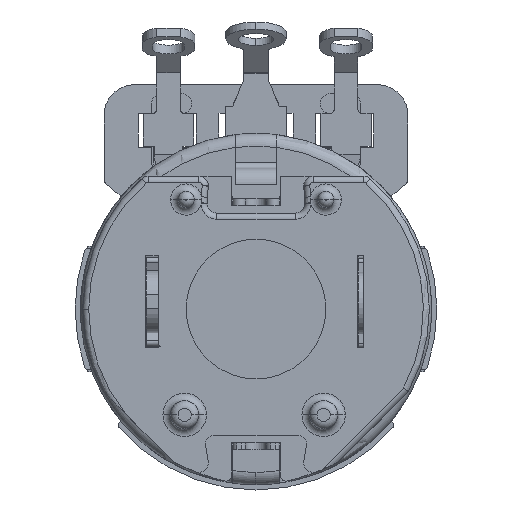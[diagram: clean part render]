
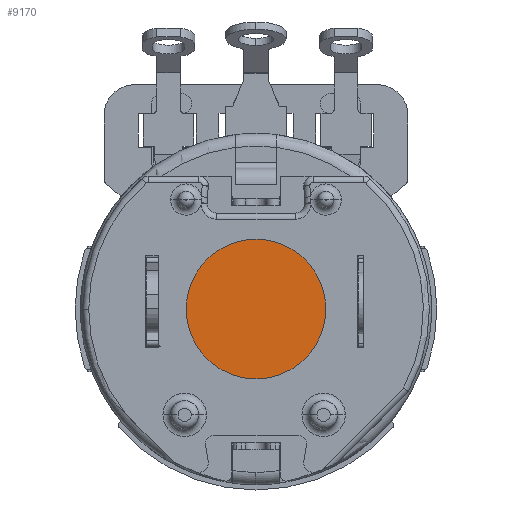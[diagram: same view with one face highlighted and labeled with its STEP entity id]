
A CAD part, front view. The second image highlights one B-rep face of the part: STEP entity #9170.
In plain terms, the highlighted planar face has unit normal (0, -1, 0) as drawn and (0, 0, 1) by its records, which use the part's own axes.
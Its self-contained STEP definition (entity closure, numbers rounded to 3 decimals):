
#609 = PLANE ( 'NONE',  #30174 ) ;
#2675 = AXIS2_PLACEMENT_3D ( 'NONE', #27291, #5985, #10508 ) ;
#3550 = EDGE_LOOP ( 'NONE', ( #9055, #25167 ) ) ;
#3962 = EDGE_CURVE ( 'NONE', #22853, #30048, #29004, .T. ) ;
#5337 = EDGE_CURVE ( 'NONE', #30048, #22853, #27086, .T. ) ;
#5985 = DIRECTION ( 'NONE',  ( 0., 0., 1. ) ) ;
#9055 = ORIENTED_EDGE ( 'NONE', *, *, #3962, .T. ) ;
#9170 = ADVANCED_FACE ( 'NONE', ( #12862 ), #609, .T. ) ;
#10508 = DIRECTION ( 'NONE',  ( 1., 0., 0. ) ) ;
#11302 = CARTESIAN_POINT ( 'NONE',  ( -4.699, 0., 3.785 ) ) ;
#12862 = FACE_OUTER_BOUND ( 'NONE', #3550, .T. ) ;
#13653 = AXIS2_PLACEMENT_3D ( 'NONE', #27352, #15219, #24724 ) ;
#15219 = DIRECTION ( 'NONE',  ( 0., 0., 1. ) ) ;
#18841 = CARTESIAN_POINT ( 'NONE',  ( 4.699, 0., 3.785 ) ) ;
#19880 = DIRECTION ( 'NONE',  ( 0., 0., 1. ) ) ;
#22853 = VERTEX_POINT ( 'NONE', #18841 ) ;
#24075 = DIRECTION ( 'NONE',  ( 1., 0., 0. ) ) ;
#24724 = DIRECTION ( 'NONE',  ( 1., 0., 0. ) ) ;
#25167 = ORIENTED_EDGE ( 'NONE', *, *, #5337, .T. ) ;
#26881 = CARTESIAN_POINT ( 'NONE',  ( 0., 0., 3.785 ) ) ;
#27086 = CIRCLE ( 'NONE', #13653, 4.699 ) ;
#27291 = CARTESIAN_POINT ( 'NONE',  ( 0., 0., 3.785 ) ) ;
#27352 = CARTESIAN_POINT ( 'NONE',  ( 0., 0., 3.785 ) ) ;
#29004 = CIRCLE ( 'NONE', #2675, 4.699 ) ;
#30048 = VERTEX_POINT ( 'NONE', #11302 ) ;
#30174 = AXIS2_PLACEMENT_3D ( 'NONE', #26881, #19880, #24075 ) ;
